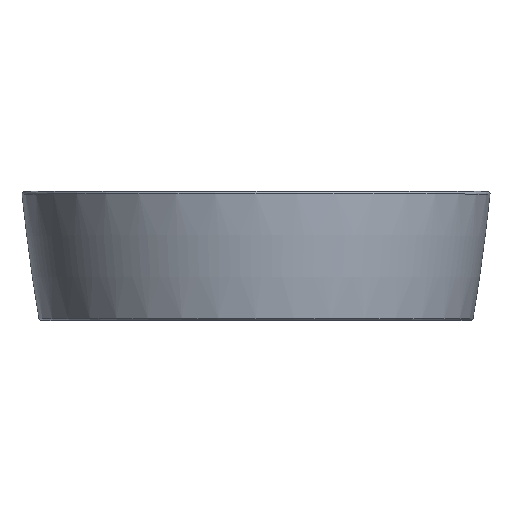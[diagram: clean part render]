
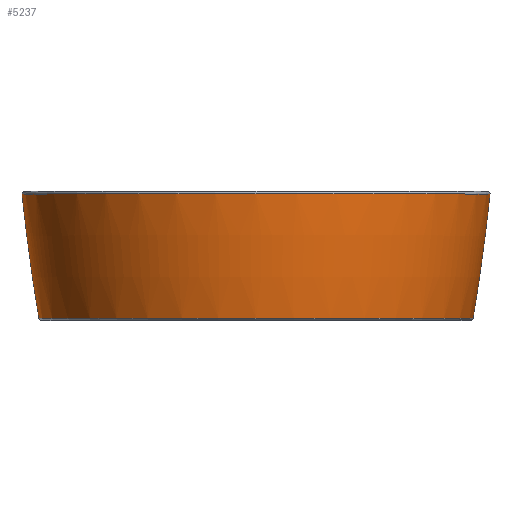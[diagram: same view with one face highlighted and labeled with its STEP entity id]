
A CAD part, top view. The second image highlights one B-rep face of the part: STEP entity #5237.
In plain terms, the highlighted toroidal (fillet/blend) face has major radius 1458.5 mm and minor radius 1667.21 mm.
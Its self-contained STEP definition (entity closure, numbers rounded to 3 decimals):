
#267 = VERTEX_POINT ( 'NONE', #2364 ) ;
#502 = EDGE_CURVE ( 'NONE', #4589, #7713, #9120, .T. ) ;
#615 = DIRECTION ( 'NONE',  ( -1., 0., 0. ) ) ;
#1318 = EDGE_CURVE ( 'NONE', #267, #6614, #10862, .T. ) ;
#1427 = AXIS2_PLACEMENT_3D ( 'NONE', #2900, #5417, #8615 ) ;
#1767 = CIRCLE ( 'NONE', #5457, 199.772 ) ;
#1881 = AXIS2_PLACEMENT_3D ( 'NONE', #10243, #9465, #3537 ) ;
#2063 = DIRECTION ( 'NONE',  ( -1., 0., 0. ) ) ;
#2364 = CARTESIAN_POINT ( 'NONE',  ( 185.283, -108.334, 0. ) ) ;
#2900 = CARTESIAN_POINT ( 'NONE',  ( 0., -108.334, 0. ) ) ;
#2906 = CARTESIAN_POINT ( 'NONE',  ( 0., 170.137, 0. ) ) ;
#3020 = FACE_OUTER_BOUND ( 'NONE', #5854, .T. ) ;
#3537 = DIRECTION ( 'NONE',  ( 1., 0., 0. ) ) ;
#4058 = CARTESIAN_POINT ( 'NONE',  ( 1458.504, 170.137, 0. ) ) ;
#4589 = VERTEX_POINT ( 'NONE', #6863 ) ;
#4744 = ORIENTED_EDGE ( 'NONE', *, *, #10204, .T. ) ;
#4748 = AXIS2_PLACEMENT_3D ( 'NONE', #2906, #6291, #2063 ) ;
#5179 = DIRECTION ( 'NONE',  ( 0., 0., -1. ) ) ;
#5237 = ADVANCED_FACE ( 'NONE', ( #3020 ), #8601, .T. ) ;
#5417 = DIRECTION ( 'NONE',  ( 0., 1., 0. ) ) ;
#5457 = AXIS2_PLACEMENT_3D ( 'NONE', #9105, #9822, #6551 ) ;
#5854 = EDGE_LOOP ( 'NONE', ( #4744, #9550, #8375, #8172 ) ) ;
#6291 = DIRECTION ( 'NONE',  ( 0., 1., 0. ) ) ;
#6551 = DIRECTION ( 'NONE',  ( -1., 0., 0. ) ) ;
#6614 = VERTEX_POINT ( 'NONE', #9448 ) ;
#6863 = CARTESIAN_POINT ( 'NONE',  ( -185.283, -108.334, 0. ) ) ;
#7573 = CIRCLE ( 'NONE', #1427, 185.283 ) ;
#7713 = VERTEX_POINT ( 'NONE', #9250 ) ;
#8055 = AXIS2_PLACEMENT_3D ( 'NONE', #4058, #5179, #615 ) ;
#8172 = ORIENTED_EDGE ( 'NONE', *, *, #502, .F. ) ;
#8375 = ORIENTED_EDGE ( 'NONE', *, *, #9342, .T. ) ;
#8601 = TOROIDAL_SURFACE ( 'NONE', #4748, -1458.504, 1667.208 ) ;
#8615 = DIRECTION ( 'NONE',  ( -1., 0., 0. ) ) ;
#9105 = CARTESIAN_POINT ( 'NONE',  ( 0., -2.207, 0. ) ) ;
#9120 = CIRCLE ( 'NONE', #8055, 1667.208 ) ;
#9250 = CARTESIAN_POINT ( 'NONE',  ( -199.772, -2.207, 0. ) ) ;
#9342 = EDGE_CURVE ( 'NONE', #6614, #7713, #1767, .T. ) ;
#9448 = CARTESIAN_POINT ( 'NONE',  ( 199.772, -2.207, 0. ) ) ;
#9465 = DIRECTION ( 'NONE',  ( 0., 0., 1. ) ) ;
#9550 = ORIENTED_EDGE ( 'NONE', *, *, #1318, .T. ) ;
#9822 = DIRECTION ( 'NONE',  ( 0., -1., 0. ) ) ;
#10204 = EDGE_CURVE ( 'NONE', #4589, #267, #7573, .T. ) ;
#10243 = CARTESIAN_POINT ( 'NONE',  ( -1458.504, 170.137, 0. ) ) ;
#10862 = CIRCLE ( 'NONE', #1881, 1667.208 ) ;
